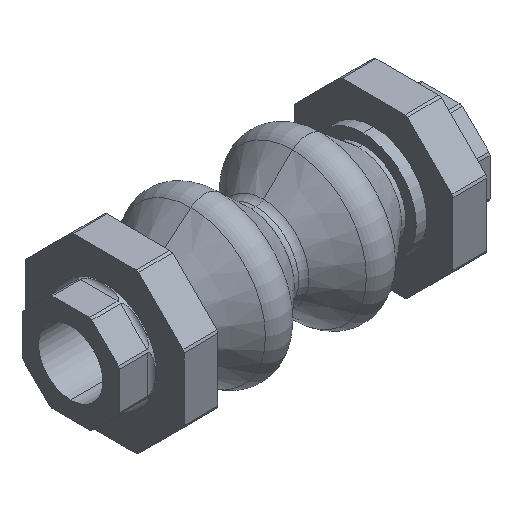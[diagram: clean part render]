
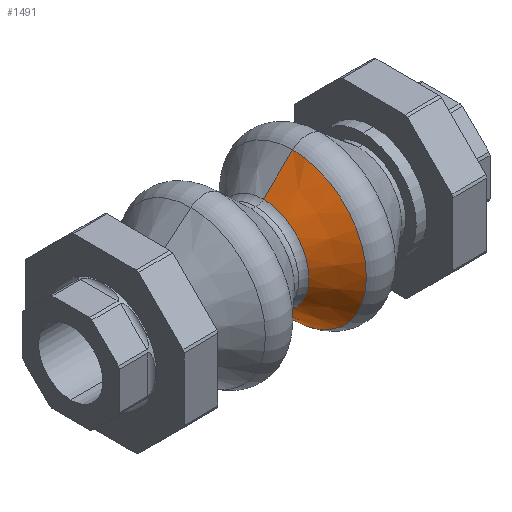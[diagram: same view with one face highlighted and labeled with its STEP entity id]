
A CAD part, isometric view. The second image highlights one B-rep face of the part: STEP entity #1491.
In plain terms, the highlighted conical face has half-angle 43.547 degrees and reference radius 34.748 mm.
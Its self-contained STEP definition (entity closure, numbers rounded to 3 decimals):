
#780 = DIRECTION ( 'NONE',  ( 0., 0., -1. ) ) ;
#786 = AXIS2_PLACEMENT_3D ( 'NONE', #1002, #1001, #1000 ) ;
#787 = AXIS2_PLACEMENT_3D ( 'NONE', #928, #797, #780 ) ;
#793 = CONICAL_SURFACE ( 'NONE', #787, 34.748, 0.76 ) ;
#797 = DIRECTION ( 'NONE',  ( 1., 0., 0. ) ) ;
#899 = FACE_OUTER_BOUND ( 'NONE', #1486, .T. ) ;
#928 = CARTESIAN_POINT ( 'NONE',  ( 17.361, 0., 0. ) ) ;
#1000 = DIRECTION ( 'NONE',  ( 0., 0., 1. ) ) ;
#1001 = DIRECTION ( 'NONE',  ( -1., 0., 0. ) ) ;
#1002 = CARTESIAN_POINT ( 'NONE',  ( 17.361, 0., 0. ) ) ;
#1003 = CIRCLE ( 'NONE', #786, 34.748 ) ;
#1486 = EDGE_LOOP ( 'NONE', ( #1487, #1495, #1494, #1489 ) ) ;
#1487 = ORIENTED_EDGE ( 'NONE', *, *, #4053, .F. ) ;
#1489 = ORIENTED_EDGE ( 'NONE', *, *, #1502, .T. ) ;
#1491 = ADVANCED_FACE ( 'NONE', ( #899 ), #793, .T. ) ;
#1494 = ORIENTED_EDGE ( 'NONE', *, *, #4020, .T. ) ;
#1495 = ORIENTED_EDGE ( 'NONE', *, *, #3989, .F. ) ;
#1502 = EDGE_CURVE ( 'NONE', #4084, #4082, #1003, .T. ) ;
#2697 = CARTESIAN_POINT ( 'NONE',  ( 3.445, 0., -21.521 ) ) ;
#2798 = CIRCLE ( 'NONE', #2851, 21.521 ) ;
#2848 = DIRECTION ( 'NONE',  ( 0., 0., 1. ) ) ;
#2849 = DIRECTION ( 'NONE',  ( -1., 0., 0. ) ) ;
#2850 = CARTESIAN_POINT ( 'NONE',  ( 3.445, 0., 0. ) ) ;
#2851 = AXIS2_PLACEMENT_3D ( 'NONE', #2850, #2849, #2848 ) ;
#2903 = DIRECTION ( 'NONE',  ( 0.725, 0., -0.689 ) ) ;
#2904 = VECTOR ( 'NONE', #2903, 1000. ) ;
#2905 = CARTESIAN_POINT ( 'NONE',  ( 17.361, 0., -34.748 ) ) ;
#2906 = LINE ( 'NONE', #2905, #2904 ) ;
#2958 = DIRECTION ( 'NONE',  ( 0.725, 0., 0.689 ) ) ;
#2959 = VECTOR ( 'NONE', #2958, 1000. ) ;
#2960 = CARTESIAN_POINT ( 'NONE',  ( 17.361, 0., 34.748 ) ) ;
#2961 = LINE ( 'NONE', #2960, #2959 ) ;
#2990 = CARTESIAN_POINT ( 'NONE',  ( 17.361, 0., 34.748 ) ) ;
#2991 = CARTESIAN_POINT ( 'NONE',  ( 17.361, 0., -34.748 ) ) ;
#2996 = CARTESIAN_POINT ( 'NONE',  ( 3.445, 0., 21.521 ) ) ;
#3989 = EDGE_CURVE ( 'NONE', #4066, #4076, #2798, .T. ) ;
#4020 = EDGE_CURVE ( 'NONE', #4066, #4084, #2906, .T. ) ;
#4053 = EDGE_CURVE ( 'NONE', #4076, #4082, #2961, .T. ) ;
#4066 = VERTEX_POINT ( 'NONE', #2697 ) ;
#4076 = VERTEX_POINT ( 'NONE', #2996 ) ;
#4082 = VERTEX_POINT ( 'NONE', #2990 ) ;
#4084 = VERTEX_POINT ( 'NONE', #2991 ) ;
